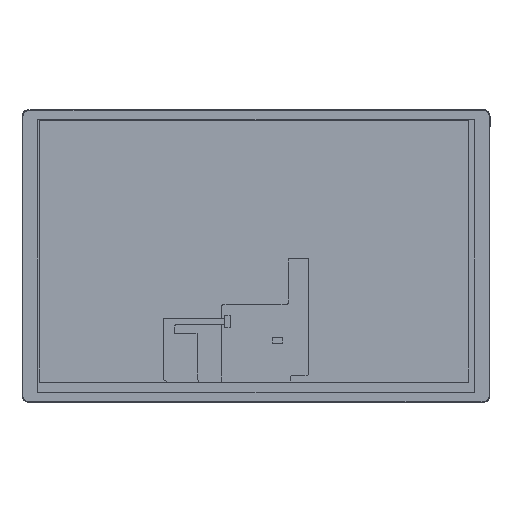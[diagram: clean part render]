
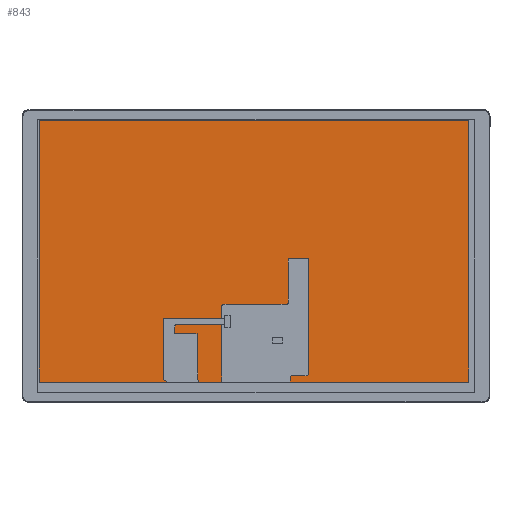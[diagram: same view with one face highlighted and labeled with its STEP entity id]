
A CAD part, top view. The second image highlights one B-rep face of the part: STEP entity #843.
In plain terms, the highlighted planar face has unit normal (0, 0, 1).
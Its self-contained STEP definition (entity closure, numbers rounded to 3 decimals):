
#161=B_SPLINE_CURVE_WITH_KNOTS('',3,(#3240,#3241,#3242,#3243),
 .UNSPECIFIED.,.F.,.F.,(4,4),(0.,1.),.UNSPECIFIED.);
#163=B_SPLINE_CURVE_WITH_KNOTS('',3,(#3254,#3255,#3256,#3257),
 .UNSPECIFIED.,.F.,.F.,(4,4),(0.,1.),.UNSPECIFIED.);
#165=B_SPLINE_CURVE_WITH_KNOTS('',3,(#3266,#3267,#3268,#3269),
 .UNSPECIFIED.,.F.,.F.,(4,4),(0.,1.),.UNSPECIFIED.);
#167=B_SPLINE_CURVE_WITH_KNOTS('',3,(#3275,#3276,#3277,#3278),
 .UNSPECIFIED.,.F.,.F.,(4,4),(0.,1.),.UNSPECIFIED.);
#756=FACE_OUTER_BOUND('',#1027,.T.);
#843=ADVANCED_FACE('',(#756),#918,.F.);
#918=PLANE('',#2118);
#1027=EDGE_LOOP('',(#1419,#1420,#1421,#1422));
#1419=ORIENTED_EDGE('',*,*,#1750,.T.);
#1420=ORIENTED_EDGE('',*,*,#1754,.T.);
#1421=ORIENTED_EDGE('',*,*,#1757,.T.);
#1422=ORIENTED_EDGE('',*,*,#1759,.T.);
#1555=VERTEX_POINT('',#3239);
#1556=VERTEX_POINT('',#3244);
#1558=VERTEX_POINT('',#3253);
#1560=VERTEX_POINT('',#3265);
#1750=EDGE_CURVE('',#1556,#1555,#161,.T.);
#1754=EDGE_CURVE('',#1555,#1558,#163,.T.);
#1757=EDGE_CURVE('',#1558,#1560,#165,.T.);
#1759=EDGE_CURVE('',#1560,#1556,#167,.T.);
#2118=AXIS2_PLACEMENT_3D('',#3280,#2452,#2453);
#2452=DIRECTION('',(0.,0.,-1.));
#2453=DIRECTION('',(-1.,0.,0.));
#3239=CARTESIAN_POINT('',(1325.259,94.895,4.7));
#3240=CARTESIAN_POINT('',(1560.259,94.895,4.7));
#3241=CARTESIAN_POINT('',(1481.926,94.895,4.7));
#3242=CARTESIAN_POINT('',(1403.593,94.895,4.7));
#3243=CARTESIAN_POINT('',(1325.259,94.895,4.7));
#3244=CARTESIAN_POINT('',(1560.259,94.895,4.7));
#3253=CARTESIAN_POINT('',(1325.259,-48.105,4.7));
#3254=CARTESIAN_POINT('',(1325.259,94.895,4.7));
#3255=CARTESIAN_POINT('',(1325.259,47.228,4.7));
#3256=CARTESIAN_POINT('',(1325.259,-0.439,4.7));
#3257=CARTESIAN_POINT('',(1325.259,-48.105,4.7));
#3265=CARTESIAN_POINT('',(1560.259,-48.105,4.7));
#3266=CARTESIAN_POINT('',(1325.259,-48.105,4.7));
#3267=CARTESIAN_POINT('',(1403.593,-48.105,4.7));
#3268=CARTESIAN_POINT('',(1481.926,-48.105,4.7));
#3269=CARTESIAN_POINT('',(1560.259,-48.105,4.7));
#3275=CARTESIAN_POINT('',(1560.259,-48.105,4.7));
#3276=CARTESIAN_POINT('',(1560.259,-0.439,4.7));
#3277=CARTESIAN_POINT('',(1560.259,47.228,4.7));
#3278=CARTESIAN_POINT('',(1560.259,94.895,4.7));
#3280=CARTESIAN_POINT('',(1442.759,94.895,4.7));
